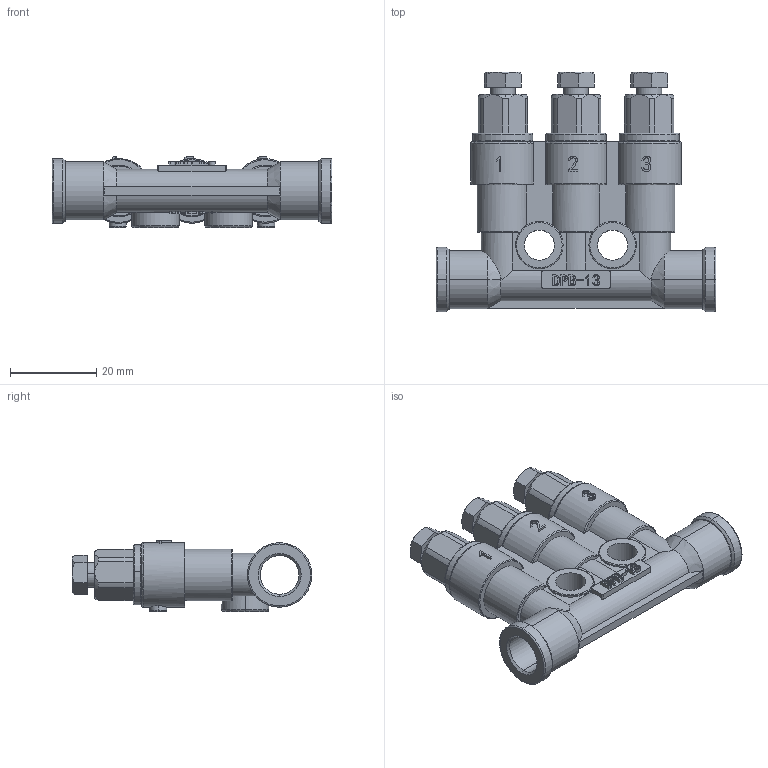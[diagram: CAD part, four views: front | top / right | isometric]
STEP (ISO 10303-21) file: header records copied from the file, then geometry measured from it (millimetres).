
FILE_DESCRIPTION (( 'STEP AP203' ), '1' );
FILE_NAME ('DPB-13.STEP', '2020-04-17T09:00:25', ( '个人用户' ), ( '微软中国' ), 'SwSTEP 2.0', 'SolidWorks 2018', '' );
FILE_SCHEMA (( 'CONFIG_CONTROL_DESIGN' ));
Length unit declared in the file: millimetre
Products named in the file (1): DPB-13
Bounding box: 65 x 55.7 x 16.5 mm (x, y, z)
Surface area: 10484.3 mm2 (no closed solid volume)
Topology: 0 solids, 10 shells, 405 faces, 1126 edges, 741 vertices
Faces by surface type: plane 183, cylinder 97, torus 43, cone 43, bspline 39
Entity records: 16780 total; most frequent: CARTESIAN_POINT 6628, ORIENTED_EDGE 2138, DIRECTION 1995, EDGE_CURVE 1126, VERTEX_POINT 741, AXIS2_PLACEMENT_3D 723, VECTOR 549, LINE 549
